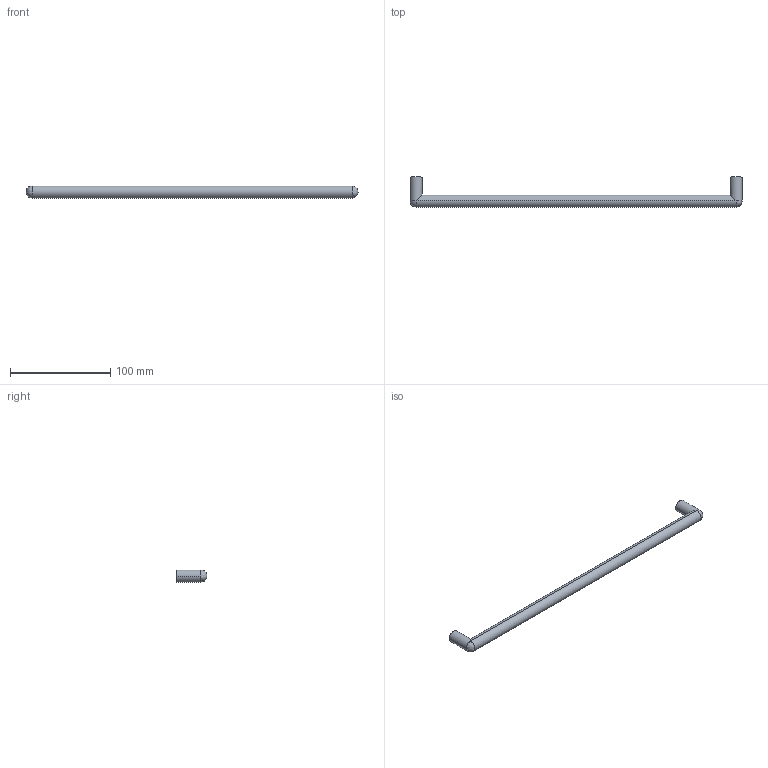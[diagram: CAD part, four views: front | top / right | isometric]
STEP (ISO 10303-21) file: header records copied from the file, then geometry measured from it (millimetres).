
FILE_DESCRIPTION( ( '' ), '1' );
FILE_NAME( 'D:/1.AUTOCAD EXPORT/Group 10/sheet_10_1/ 9070998.stp', '2013-10-17T08:22:54', ( '' ), ( '' ), ' ', ' ', ' ' );
FILE_SCHEMA( ( 'automotive_design' ) );
Length unit declared in the file: millimetre
Products named in the file (1): 1
Bounding box: 332 x 30 x 12 mm (x, y, z)
Volume: 41103.5 mm3; surface area: 14351.8 mm2
Topology: 1 solids, 1 shells, 16 faces, 36 edges, 20 vertices
Faces by surface type: cylinder 10, plane 4, sphere 2
Entity records: 838 total; most frequent: DIRECTION 88, STYLED_ITEM 69, PRESENTATION_STYLE_ASSIGNMENT 69, CARTESIAN_POINT 69, COLOUR_RGB 69, ORIENTED_EDGE 64, AXIS2_PLACEMENT_3D 39, EDGE_CURVE 32
